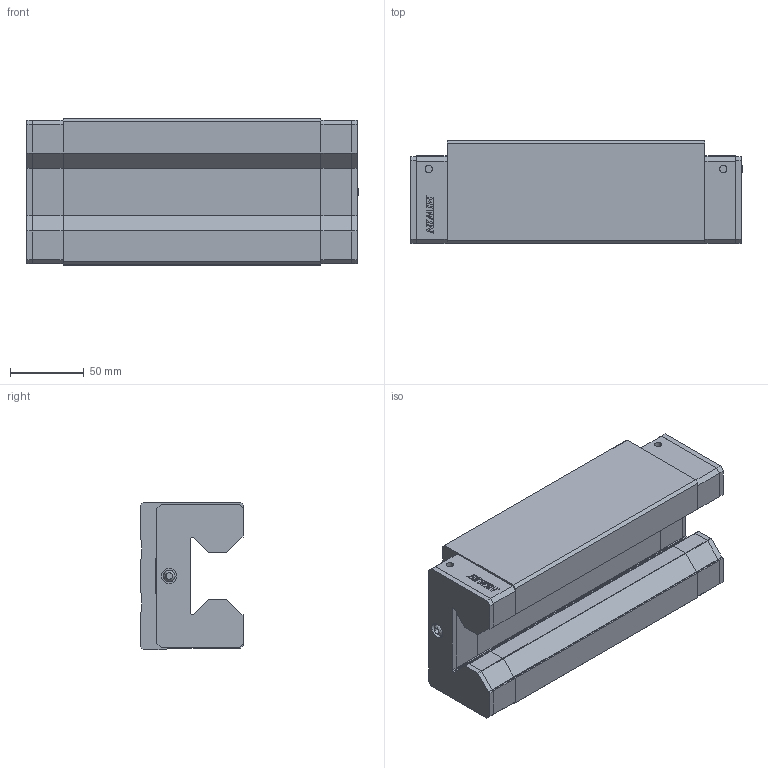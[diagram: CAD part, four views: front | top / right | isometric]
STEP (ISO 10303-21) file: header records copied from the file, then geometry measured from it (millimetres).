
FILE_DESCRIPTION(/* description */ (''),/* implementation_level */ '2;1');
FILE_NAME(/* name */ 'URH55HAZ0H_GW202603049637.stp',/* time_stamp */ '2026-03-30T23:01:21+08:00',/* author */ ('user'),/* organization */ (''),/* preprocessor_version */ 'ST-DEVELOPER v20.1',/* originating_system */ 'Autodesk Inventor 2026',/* authorisation */ '');
FILE_SCHEMA (('AUTOMOTIVE_DESIGN { 1 0 10303 214 3 1 1 }'));
Products named in the file (3): URH55HAZ0H_GW202603049637; URH55H_左封; 31010069
Assembly tree (3 placements, depth 2):
  URH55HAZ0H_GW202603049637
    URH55H_左封
    31010069  x2
Bounding box: 225.7 x 70 x 100 mm (x, y, z)
Volume: 1163652.3 mm3; surface area: 144162 mm2
Topology: 7 solids, 7 shells, 514 faces, 1420 edges, 944 vertices
Faces by surface type: plane 372, cylinder 134, cone 6, bspline 2
Full cylindrical faces by diameter (mm): 1.5 x2, 4.917 x4, 6 x2, 6.5 x2, 8 x2, 10.106 x6, 10.3 x2, 10.5 x2
Entity records: 16087 total; most frequent: CARTESIAN_POINT 2848, ORIENTED_EDGE 2776, DIRECTION 2666, EDGE_CURVE 1388, LINE 1122, VECTOR 1122, VERTEX_POINT 927, AXIS2_PLACEMENT_3D 772
